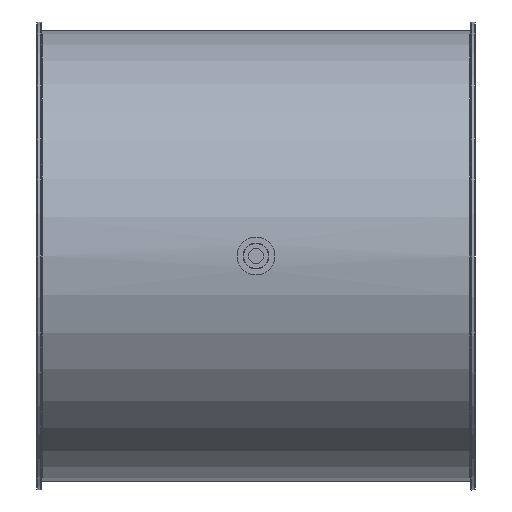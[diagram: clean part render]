
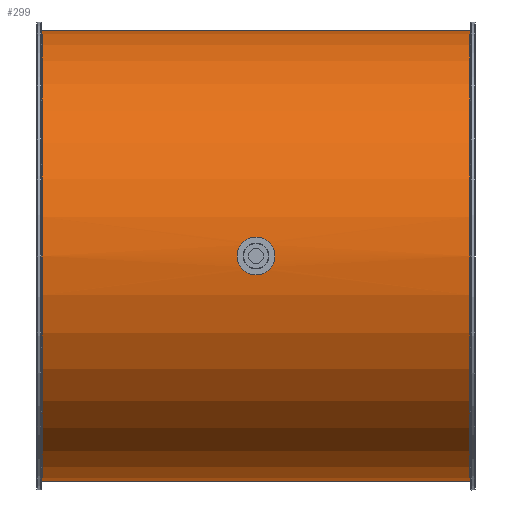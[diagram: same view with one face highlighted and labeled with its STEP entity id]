
A CAD part, front view. The second image highlights one B-rep face of the part: STEP entity #299.
In plain terms, the highlighted cylindrical face has radius 226 mm (diameter 452 mm), a full revolution.
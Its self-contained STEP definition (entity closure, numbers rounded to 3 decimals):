
#103=B_SPLINE_CURVE_WITH_KNOTS('',3,(#1743,#1744,#1745,#1746,#1747,#1748,
#1749,#1750,#1751,#1752,#1753,#1754,#1755,#1756,#1757,#1758,#1759,#1760),
 .UNSPECIFIED.,.T.,.F.,(2,2,2,2,2,2,2,2,2,2,2),(-0.125,0.,0.125,
0.25,0.375,0.5,0.625,
0.75,0.875,1.,1.125),.UNSPECIFIED.);
#104=B_SPLINE_CURVE_WITH_KNOTS('',3,(#1762,#1763,#1764,#1765,#1766,#1767,
#1768,#1769,#1770,#1771,#1772,#1773,#1774,#1775,#1776,#1777,#1778,#1779),
 .UNSPECIFIED.,.T.,.F.,(2,2,2,2,2,2,2,2,2,2,2),(-0.125,0.,0.125,
0.25,0.375,0.5,0.625,
0.75,0.875,1.,1.125),.UNSPECIFIED.);
#259=CYLINDRICAL_SURFACE('',#1216,226.);
#299=ADVANCED_FACE('',(#431,#432,#433,#434),#259,.T.);
#431=FACE_BOUND('',#545,.T.);
#432=FACE_BOUND('',#546,.T.);
#433=FACE_BOUND('',#547,.T.);
#434=FACE_BOUND('',#548,.T.);
#545=EDGE_LOOP('',(#703));
#546=EDGE_LOOP('',(#704));
#547=EDGE_LOOP('',(#705));
#548=EDGE_LOOP('',(#706));
#703=ORIENTED_EDGE('',*,*,#1013,.T.);
#704=ORIENTED_EDGE('',*,*,#1014,.F.);
#705=ORIENTED_EDGE('',*,*,#1015,.F.);
#706=ORIENTED_EDGE('',*,*,#1016,.T.);
#915=VERTEX_POINT('',#1742);
#916=VERTEX_POINT('',#1761);
#917=VERTEX_POINT('',#1780);
#918=VERTEX_POINT('',#1782);
#1013=EDGE_CURVE('',#915,#915,#1127,.T.);
#1014=EDGE_CURVE('',#916,#916,#103,.T.);
#1015=EDGE_CURVE('',#917,#917,#104,.T.);
#1016=EDGE_CURVE('',#918,#918,#1128,.T.);
#1127=CIRCLE('',#1214,226.);
#1128=CIRCLE('',#1215,226.);
#1214=AXIS2_PLACEMENT_3D('',#1741,#1408,#1409);
#1215=AXIS2_PLACEMENT_3D('',#1781,#1410,#1411);
#1216=AXIS2_PLACEMENT_3D('',#1783,#1412,#1413);
#1408=DIRECTION('',(-1.,0.,0.));
#1409=DIRECTION('',(0.,0.,-1.));
#1410=DIRECTION('',(1.,0.,0.));
#1411=DIRECTION('',(0.,0.,1.));
#1412=DIRECTION('',(1.,0.,0.));
#1413=DIRECTION('',(0.,0.,-1.));
#1741=CARTESIAN_POINT('',(214.83,-109.,125.));
#1742=CARTESIAN_POINT('',(214.83,-109.,-101.));
#1743=CARTESIAN_POINT('',(3.436,116.626,112.));
#1744=CARTESIAN_POINT('',(-3.436,116.626,112.));
#1745=CARTESIAN_POINT('',(-6.795,116.715,113.41));
#1746=CARTESIAN_POINT('',(-11.591,116.911,118.207));
#1747=CARTESIAN_POINT('',(-12.998,117.,121.601));
#1748=CARTESIAN_POINT('',(-13.002,117.,128.385));
#1749=CARTESIAN_POINT('',(-11.623,116.912,131.76));
#1750=CARTESIAN_POINT('',(-6.771,116.714,136.616));
#1751=CARTESIAN_POINT('',(-3.398,116.626,137.999));
#1752=CARTESIAN_POINT('',(3.389,116.626,138.001));
#1753=CARTESIAN_POINT('',(6.784,116.715,136.596));
#1754=CARTESIAN_POINT('',(11.583,116.91,131.806));
#1755=CARTESIAN_POINT('',(12.997,117.,128.444));
#1756=CARTESIAN_POINT('',(13.003,117.,121.582));
#1757=CARTESIAN_POINT('',(11.597,116.911,118.216));
#1758=CARTESIAN_POINT('',(6.802,116.716,113.414));
#1759=CARTESIAN_POINT('',(3.436,116.626,112.));
#1760=CARTESIAN_POINT('',(-3.436,116.626,112.));
#1761=CARTESIAN_POINT('',(0.,116.626,112.));
#1762=CARTESIAN_POINT('',(-3.436,-334.626,112.));
#1763=CARTESIAN_POINT('',(3.436,-334.626,112.));
#1764=CARTESIAN_POINT('',(6.795,-334.715,113.41));
#1765=CARTESIAN_POINT('',(11.591,-334.911,118.207));
#1766=CARTESIAN_POINT('',(12.998,-335.,121.601));
#1767=CARTESIAN_POINT('',(13.002,-335.,128.385));
#1768=CARTESIAN_POINT('',(11.623,-334.912,131.76));
#1769=CARTESIAN_POINT('',(6.771,-334.714,136.616));
#1770=CARTESIAN_POINT('',(3.398,-334.626,137.999));
#1771=CARTESIAN_POINT('',(-3.389,-334.626,138.001));
#1772=CARTESIAN_POINT('',(-6.784,-334.715,136.596));
#1773=CARTESIAN_POINT('',(-11.583,-334.91,131.806));
#1774=CARTESIAN_POINT('',(-12.997,-335.,128.444));
#1775=CARTESIAN_POINT('',(-13.003,-335.,121.582));
#1776=CARTESIAN_POINT('',(-11.597,-334.911,118.216));
#1777=CARTESIAN_POINT('',(-6.802,-334.716,113.414));
#1778=CARTESIAN_POINT('',(-3.436,-334.626,112.));
#1779=CARTESIAN_POINT('',(3.436,-334.626,112.));
#1780=CARTESIAN_POINT('',(0.,-334.626,112.));
#1781=CARTESIAN_POINT('',(-214.83,-109.,125.));
#1782=CARTESIAN_POINT('',(-214.83,-109.,351.));
#1783=CARTESIAN_POINT('',(-220.,-109.,125.));
